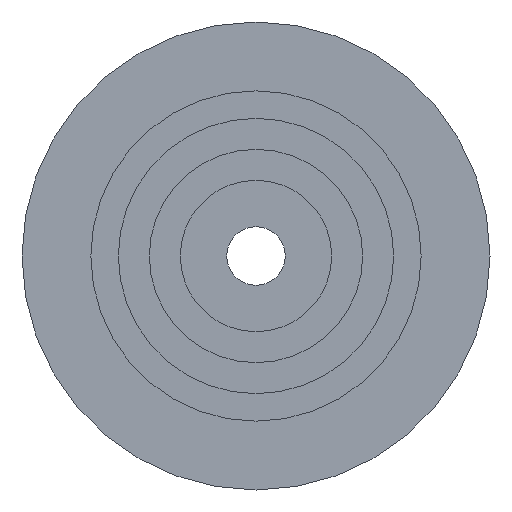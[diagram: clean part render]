
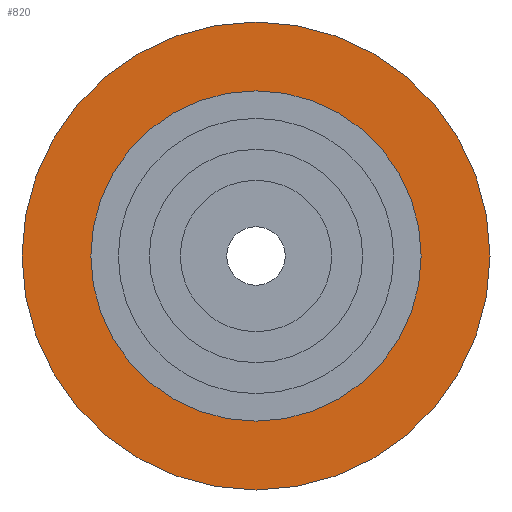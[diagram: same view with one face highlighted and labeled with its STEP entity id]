
A CAD part, left-side view. The second image highlights one B-rep face of the part: STEP entity #820.
In plain terms, the highlighted planar face has unit normal (-1, 0, 0).
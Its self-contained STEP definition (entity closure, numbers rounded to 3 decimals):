
#1=CARTESIAN_POINT('',(-21.,0.,0.));
#2=DIRECTION('',(1.,0.,0.));
#3=DIRECTION('',(0.,0.,-1.));
#4=AXIS2_PLACEMENT_3D('',#1,#2,#3);
#14=CARTESIAN_POINT('',(-21.,0.,0.));
#15=DIRECTION('',(-1.,0.,0.));
#16=DIRECTION('',(0.,0.,-1.));
#17=AXIS2_PLACEMENT_3D('',#14,#15,#16);
#279=CARTESIAN_POINT('',(-21.,0.,0.));
#280=DIRECTION('',(-1.,0.,0.));
#281=DIRECTION('',(0.,0.,-1.));
#282=AXIS2_PLACEMENT_3D('',#279,#280,#281);
#284=CARTESIAN_POINT('',(-21.,0.,0.));
#285=DIRECTION('',(1.,0.,0.));
#286=DIRECTION('',(0.,0.,-1.));
#287=AXIS2_PLACEMENT_3D('',#284,#285,#286);
#289=CARTESIAN_POINT('',(-21.,0.,-24.));
#291=VERTEX_POINT('',#289);
#307=CARTESIAN_POINT('',(-21.,0.,24.));
#309=VERTEX_POINT('',#307);
#358=CARTESIAN_POINT('',(-21.,0.,-34.));
#360=VERTEX_POINT('',#358);
#366=CARTESIAN_POINT('',(-21.,0.,34.));
#368=VERTEX_POINT('',#366);
#807=CARTESIAN_POINT('',(-21.,0.,0.));
#808=DIRECTION('',(1.,0.,0.));
#809=DIRECTION('',(0.,0.,1.));
#810=AXIS2_PLACEMENT_3D('',#807,#808,#809);
#811=PLANE('',#810);
#812=ORIENTED_EDGE('',*,*,#800,.F.);
#813=ORIENTED_EDGE('',*,*,#789,.T.);
#814=EDGE_LOOP('',(#812,#813));
#815=FACE_OUTER_BOUND('',#814,.F.);
#816=ORIENTED_EDGE('',*,*,#376,.F.);
#817=ORIENTED_EDGE('',*,*,#394,.T.);
#818=EDGE_LOOP('',(#816,#817));
#819=FACE_BOUND('',#818,.F.);
#820=ADVANCED_FACE('',(#815,#819),#811,.F.);
#5=CIRCLE('',#4,24.);
#18=CIRCLE('',#17,24.);
#283=CIRCLE('',#282,34.);
#288=CIRCLE('',#287,34.);
#376=EDGE_CURVE('',#291,#309,#5,.T.);
#394=EDGE_CURVE('',#291,#309,#18,.T.);
#789=EDGE_CURVE('',#360,#368,#288,.T.);
#800=EDGE_CURVE('',#360,#368,#283,.T.);
